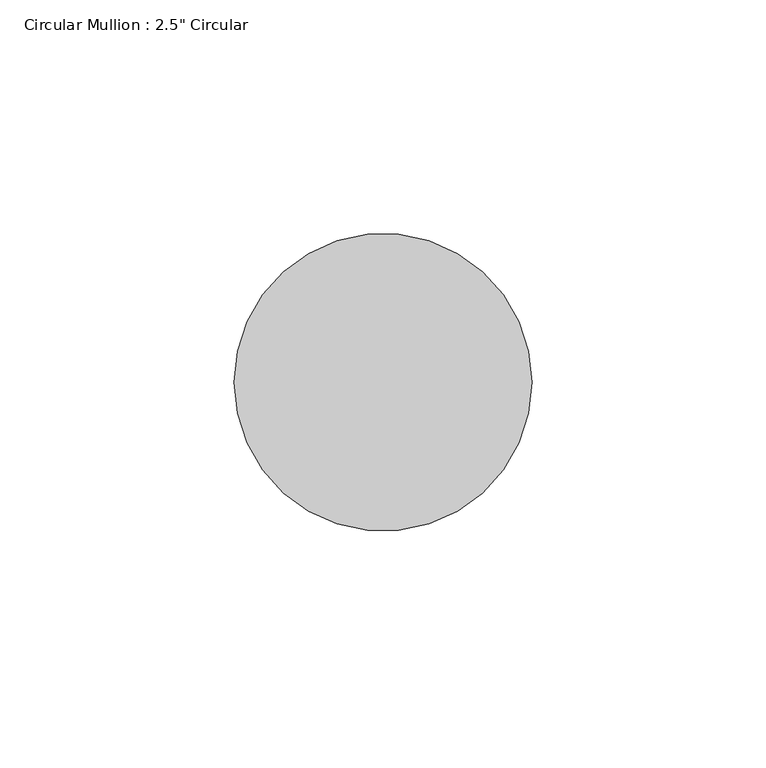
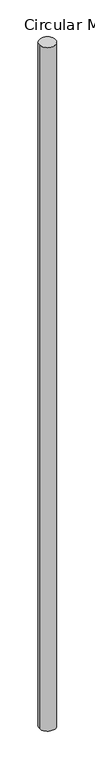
"""IFC4 building model written with IfcOpenShell, lengths in millimetres: member geometry."""

from ifc_helpers import new_model, si_unit, point, frame, origin, origin_2d, place, context, project, spatial, circle_curve, trimmed, segment, composite_curve, outline, extrude, source, transform, mapped, element, save


def member_86dfeeaf(model_context):
    return source(origin(), model_context, "Body", "SweptSolid", [
        extrude(outline(composite_curve([segment(trimmed(circle_curve(origin_2d(), 31.75), [point((31.75, 0.0))], [point((-31.75, 0.0))], False, "CARTESIAN"), True, "CONTINUOUS"), segment(trimmed(circle_curve(origin_2d(), 31.75), [point((-31.75, 0.0))], [point((31.75, 0.0))], False, "CARTESIAN"), True, "CONTINUOUS")], self_intersect=False)), frame((0.0, 0.0, -2837.8660501), z_axis=(0.0, 0.0, 1.0), x_axis=(1.0, 0.0, 0.0)), (0.0, 0.0, 1.0), 2837.8660501),
    ])


if __name__ == "__main__":
    model = new_model("IFC4")
    model_context = context("Model", 3, world=origin())
    ifc_project = project(units=[si_unit("LENGTHUNIT", "METRE", prefix="MILLI")], contexts=[model_context])
    site = spatial("IfcSite", under=ifc_project)
    building = spatial("IfcBuilding", under=site)
    placement = place(None, origin())
    member_shape = member_86dfeeaf(model_context)
    element("IfcMember", 1, ObjectType="Circular Mullion : 2.5\" Circular", at=placement, inside=building, context=model_context, shape_type="MappedRepresentation", body=[
        mapped(member_shape, transform((0.0, 0.0, 0.0), x_axis=(1.0, 0.0, 0.0), y_axis=(0.0, 1.0, 0.0), z_axis=(0.0, 0.0, 1.0))),
    ])
    save(model, "model.ifc")
